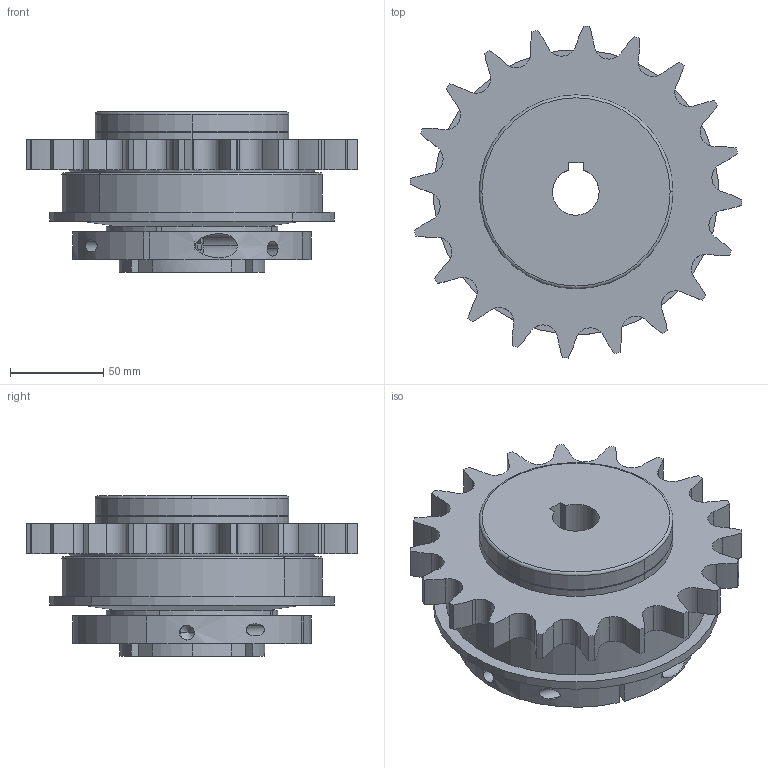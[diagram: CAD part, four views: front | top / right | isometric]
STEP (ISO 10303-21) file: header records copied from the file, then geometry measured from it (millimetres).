
FILE_DESCRIPTION(('STEP AP214'),'1');
FILE_NAME('4_140_edf_f_c_d25-a1_t3.stp','2024-04-16T11:24:15',('TraceParts'),('TraceParts S.A.'),'Spatial InterOp 3D',' ',' ');
FILE_SCHEMA(('AUTOMOTIVE_DESIGN { 1 0 10303 214 1 1 1 1 }'));
Length unit declared in the file: millimetre
Products named in the file (1): 4_140_edf_f_c_d25-a1_t3
Bounding box: 178.05 x 178.05 x 86 mm (x, y, z)
Volume: 985352 mm3; surface area: 204684.1 mm2
Topology: 1 solids, 1 shells, 281 faces, 944 edges, 616 vertices
Faces by surface type: cylinder 180, plane 66, torus 14, revolution 12, cone 9
Entity records: 18792 total; most frequent: CARTESIAN_POINT 2824, ORIENTED_EDGE 1872, DIRECTION 1850, PRESENTATION_STYLE_ASSIGNMENT 1366, COLOUR_RGB 1366, STYLED_ITEM 1095, CURVE_STYLE 1085, DRAUGHTING_PRE_DEFINED_CURVE_FONT 1085
